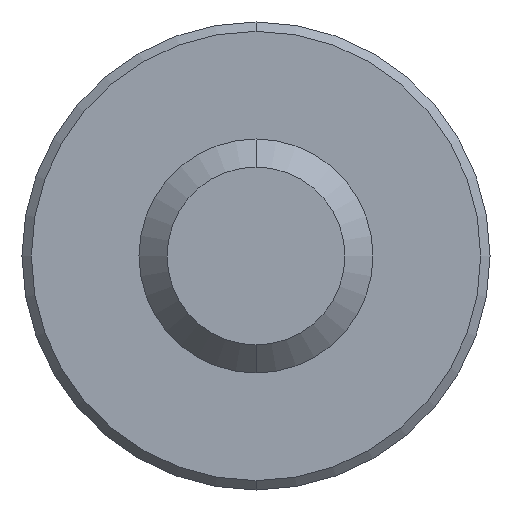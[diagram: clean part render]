
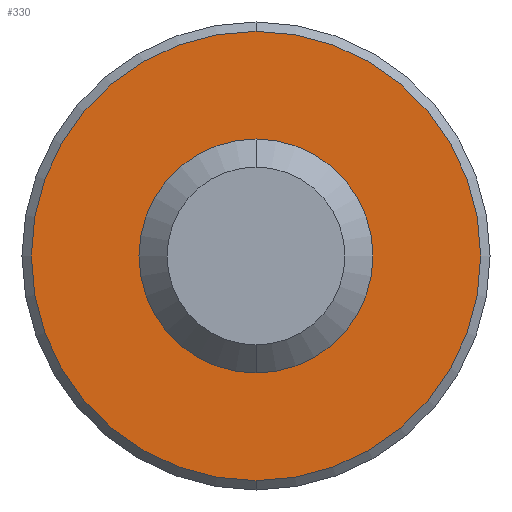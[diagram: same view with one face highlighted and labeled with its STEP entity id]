
A CAD part, front view. The second image highlights one B-rep face of the part: STEP entity #330.
In plain terms, the highlighted planar face has unit normal (0, -1, 0).
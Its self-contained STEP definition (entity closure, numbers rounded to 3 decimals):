
#2 = EDGE_CURVE ( 'NONE', #578, #512, #564, .T. ) ;
#10 = EDGE_CURVE ( 'NONE', #512, #578, #346, .T. ) ;
#15 = EDGE_CURVE ( 'NONE', #499, #557, #359, .T. ) ;
#23 = EDGE_CURVE ( 'NONE', #557, #499, #337, .T. ) ;
#36 = AXIS2_PLACEMENT_3D ( 'NONE', #192, #199, #197 ) ;
#37 = AXIS2_PLACEMENT_3D ( 'NONE', #172, #175, #167 ) ;
#39 = AXIS2_PLACEMENT_3D ( 'NONE', #306, #311, #307 ) ;
#51 = AXIS2_PLACEMENT_3D ( 'NONE', #136, #138, #139 ) ;
#69 = AXIS2_PLACEMENT_3D ( 'NONE', #161, #173, #183 ) ;
#93 = CARTESIAN_POINT ( 'NONE',  ( 0., 5., 1.25 ) ) ;
#102 = CARTESIAN_POINT ( 'NONE',  ( 0., 5., 2.4 ) ) ;
#107 = CARTESIAN_POINT ( 'NONE',  ( 0., 5., -1.25 ) ) ;
#112 = CARTESIAN_POINT ( 'NONE',  ( 0., 5., -2.4 ) ) ;
#136 = CARTESIAN_POINT ( 'NONE',  ( 0., 5., 0. ) ) ;
#138 = DIRECTION ( 'NONE',  ( 0., -1., 0. ) ) ;
#139 = DIRECTION ( 'NONE',  ( 0., 0., 1. ) ) ;
#161 = CARTESIAN_POINT ( 'NONE',  ( 0., 5., 0. ) ) ;
#167 = DIRECTION ( 'NONE',  ( 0., 0., 1. ) ) ;
#172 = CARTESIAN_POINT ( 'NONE',  ( 0., 5., 0. ) ) ;
#173 = DIRECTION ( 'NONE',  ( 0., -1., 0. ) ) ;
#175 = DIRECTION ( 'NONE',  ( 0., -1., 0. ) ) ;
#183 = DIRECTION ( 'NONE',  ( 0., 0., -1. ) ) ;
#192 = CARTESIAN_POINT ( 'NONE',  ( 0., 5., 0. ) ) ;
#197 = DIRECTION ( 'NONE',  ( 0., 0., -1. ) ) ;
#199 = DIRECTION ( 'NONE',  ( 0., -1., 0. ) ) ;
#297 = PLANE ( 'NONE',  #39 ) ;
#306 = CARTESIAN_POINT ( 'NONE',  ( -1.25, 5., 0. ) ) ;
#307 = DIRECTION ( 'NONE',  ( 0., 0., 1. ) ) ;
#311 = DIRECTION ( 'NONE',  ( 0., 1., 0. ) ) ;
#330 = ADVANCED_FACE ( 'NONE', ( #404, #401 ), #297, .F. ) ;
#337 = CIRCLE ( 'NONE', #36, 1.25 ) ;
#346 = CIRCLE ( 'NONE', #37, 2.4 ) ;
#359 = CIRCLE ( 'NONE', #69, 1.25 ) ;
#401 = FACE_BOUND ( 'NONE', #457, .T. ) ;
#404 = FACE_OUTER_BOUND ( 'NONE', #458, .T. ) ;
#457 = EDGE_LOOP ( 'NONE', ( #535, #494 ) ) ;
#458 = EDGE_LOOP ( 'NONE', ( #531, #489 ) ) ;
#489 = ORIENTED_EDGE ( 'NONE', *, *, #2, .T. ) ;
#494 = ORIENTED_EDGE ( 'NONE', *, *, #23, .F. ) ;
#499 = VERTEX_POINT ( 'NONE', #107 ) ;
#512 = VERTEX_POINT ( 'NONE', #102 ) ;
#531 = ORIENTED_EDGE ( 'NONE', *, *, #10, .T. ) ;
#535 = ORIENTED_EDGE ( 'NONE', *, *, #15, .F. ) ;
#557 = VERTEX_POINT ( 'NONE', #93 ) ;
#564 = CIRCLE ( 'NONE', #51, 2.4 ) ;
#578 = VERTEX_POINT ( 'NONE', #112 ) ;
